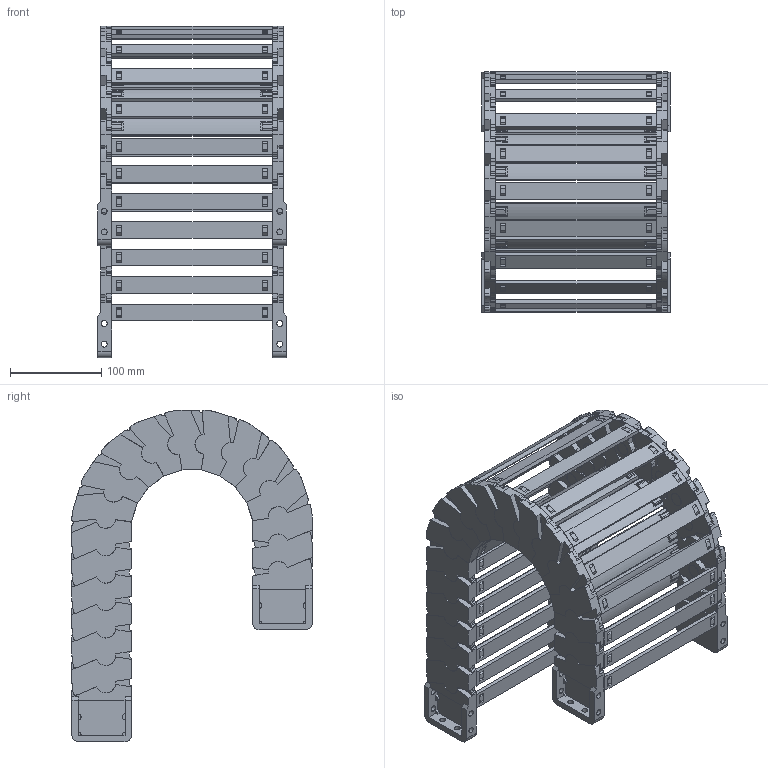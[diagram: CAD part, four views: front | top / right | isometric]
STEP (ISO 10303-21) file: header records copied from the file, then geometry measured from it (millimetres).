
FILE_DESCRIPTION((''),'2;1');
FILE_NAME('JY-52X175-R100_ASM','2026-05-04T14:47:25',('admin'),(''),'CREO PARAMETRIC BY PTC INC, 2021023','CREO PARAMETRIC BY PTC INC, 2021023','');
FILE_SCHEMA(('CONFIG_CONTROL_DESIGN'));
Length unit declared in the file: millimetre
Products named in the file (11): 52XL-L; 42-52XL-YP; 52XL-R; ASM0001_ASM; 52-LTT-A-L; 52-LTT-A-R; 52XL-LTT-A_ASM; 52-LTT-B-L; 52-LTT-B-R; 52XL-LTT-B_ASM; JY-52X175-R100_ASM
Assembly tree (31 placements, depth 3):
  JY-52X175-R100_ASM
    ASM0001_ASM  x17
      52XL-L
      42-52XL-YP
      52XL-R
    52XL-LTT-A_ASM
      52-LTT-A-L
      42-52XL-YP  x2
      52-LTT-A-R
    52XL-LTT-B_ASM
      52-LTT-B-L
      42-52XL-YP  x2
      52-LTT-B-R
Bounding box: 206 x 262.77 x 362.55 mm (x, y, z)
Volume: 1406280.3 mm3; surface area: 708068 mm2
Topology: 76 solids, 76 shells, 3900 faces, 11806 edges, 8056 vertices
Faces by surface type: plane 2770, cylinder 842, cone 288
Entity records: 18466 total; most frequent: CARTESIAN_POINT 3392, DIRECTION 3130, ORIENTED_EDGE 3124, EDGE_CURVE 1562, VECTOR 1074, LINE 1074, VERTEX_POINT 1056, AXIS2_PLACEMENT_3D 1028
